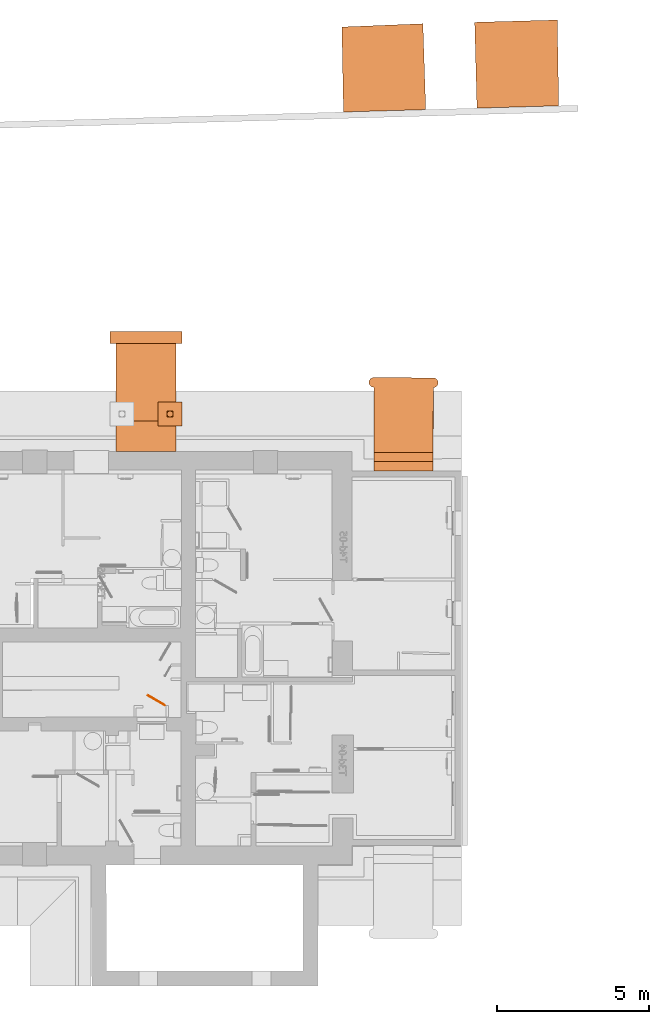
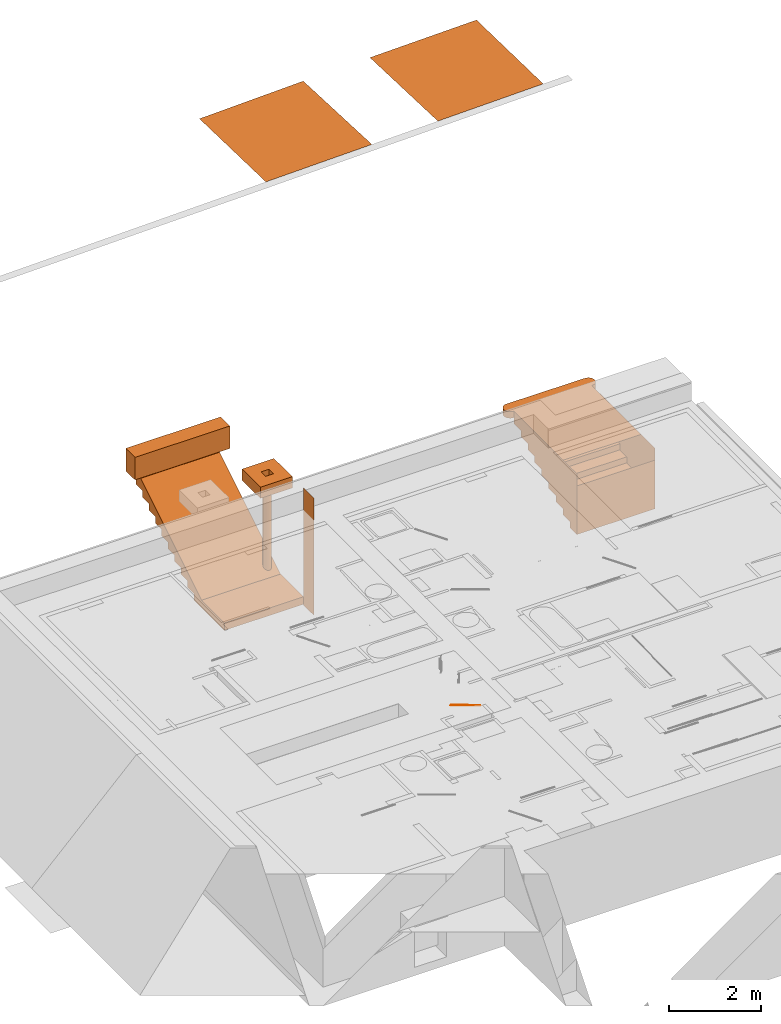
# Not in any storey, part 21 of 22: 6 proxies.
"""IFC4 model written with IfcOpenShell, lengths in metres."""

import ifcopenshell
import ifcopenshell.guid

model = None  # the IFC model being written
_history = None  # IfcOwnerHistory: only IFC2X3 demands one
_inside = {}  # id of a spatial element -> (the spatial element, [elements in it])
_under = {}  # id of a project, library or spatial element -> (it, [spatial elements below it])
_declared = {}  # id of a project -> (the project, [libraries it declares])
_typed = {}  # id of a type object -> (the type object, [elements of that type])
_made_of = {}  # id of a material, layer set ... -> (it, [elements and type objects made of it])


def new_model(schema):
    """Start an empty IFC model of exactly this schema.

    Asked for "IFC4X3", IfcOpenShell would pick the latest addendum, in which some entities
    have other attributes; the version numbers below select the first issue.
    IFC2X3 requires an IfcOwnerHistory on every rooted entity: one is made here for all.
    """
    global model, _history
    if schema == "IFC4X3":
        model = ifcopenshell.file(schema_version=(4, 3, 0, 0))
    else:
        model = ifcopenshell.file(schema=schema)
    _inside.clear()
    _under.clear()
    _declared.clear()
    _typed.clear()
    _made_of.clear()
    _history = None
    if model.schema == "IFC2X3":
        org = make("IfcOrganization", Name="unknown")
        user = make(
            "IfcPersonAndOrganization",
            ThePerson=make("IfcPerson", FamilyName="unknown"),
            TheOrganization=org,
        )
        app = make(
            "IfcApplication",
            ApplicationDeveloper=org,
            Version="unknown",
            ApplicationFullName="unknown",
            ApplicationIdentifier="unknown",
        )
        _history = make(
            "IfcOwnerHistory",
            OwningUser=user,
            OwningApplication=app,
            ChangeAction="ADDED",
            CreationDate=0,
        )
    return model


def make(cls, **values):
    """One entity of the class cls with the attributes given. An attribute that is None is left unset."""
    return model.create_entity(
        cls, **{name: value for name, value in values.items() if value is not None}
    )


def rooted(cls, **values):
    """An entity with a GlobalId (a new one), such as an element, a storey or a relation."""
    return make(cls, GlobalId=ifcopenshell.guid.new(), OwnerHistory=_history, **values)


def si_unit(unit_type, name, prefix=None):
    """IfcSIUnit, for example si_unit("LENGTHUNIT", "METRE", prefix="MILLI")."""
    return make("IfcSIUnit", UnitType=unit_type, Prefix=prefix, Name=name)


def assignment(units):
    """IfcUnitAssignment: the units of a project."""
    return None if units is None else make("IfcUnitAssignment", Units=units)


def point(xyz):
    """IfcCartesianPoint."""
    return None if xyz is None else make("IfcCartesianPoint", Coordinates=xyz)


def direction(xyz):
    """IfcDirection."""
    return None if xyz is None else make("IfcDirection", DirectionRatios=xyz)


def frame(location, z_axis=None, x_axis=None):
    """IfcAxis2Placement3D, a coordinate frame: its origin and axes. An axis left out is left unset."""
    return make(
        "IfcAxis2Placement3D",
        Location=point(location),
        Axis=direction(z_axis),
        RefDirection=direction(x_axis),
    )


def origin_with_axes():
    """The frame at (0, 0, 0) with the z axis (0, 0, 1) and the x axis (1, 0, 0) written out."""
    return frame((0.0, 0.0, 0.0), z_axis=(0.0, 0.0, 1.0), x_axis=(1.0, 0.0, 0.0))


def place(relative_to, where):
    """IfcLocalPlacement: puts the frame where relative to a parent placement (None: the world)."""
    return make(
        "IfcLocalPlacement", PlacementRelTo=relative_to, RelativePlacement=where
    )


def context(
    kind, dimensions, precision=None, world=None, true_north=None, identifier=None
):
    """IfcGeometricRepresentationContext, for example the 3D "Model" context."""
    return make(
        "IfcGeometricRepresentationContext",
        ContextIdentifier=identifier,
        ContextType=kind,
        CoordinateSpaceDimension=dimensions,
        Precision=precision,
        WorldCoordinateSystem=world,
        TrueNorth=true_north,
    )


def subcontext(parent, identifier, kind, view, scale=None):
    """IfcGeometricRepresentationSubContext, for example "Body" below "Model"."""
    return make(
        "IfcGeometricRepresentationSubContext",
        ContextIdentifier=identifier,
        ContextType=kind,
        ParentContext=parent,
        TargetScale=scale,
        TargetView=view,
    )


def project(units=None, contexts=None):
    """IfcProject with its units and contexts."""
    return rooted(
        "IfcProject",
        Name="project",
        RepresentationContexts=contexts,
        UnitsInContext=assignment(units),
    )


def faces_of(points, faces, orient=None, outer=None):
    """IfcFace entities. A face is a list of loops; a loop is a list of indices into points, from 0.

    orient and outer hold one flag for each loop. By default every Orientation is true, the
    first loop of a face is its IfcFaceOuterBound and the others are IfcFaceBound.
    """
    made = []
    for i, loops in enumerate(faces):
        bounds = []
        for j, loop in enumerate(loops):
            is_outer = j == 0 if outer is None else outer[i][j]
            bounds.append(
                make(
                    "IfcFaceOuterBound" if is_outer else "IfcFaceBound",
                    Bound=make("IfcPolyLoop", Polygon=[points[k] for k in loop]),
                    Orientation=True if orient is None else orient[i][j],
                )
            )
        made.append(make("IfcFace", Bounds=bounds))
    return made


def faceted_brep(points, faces, orient=None, outer=None, voids=None):
    """IfcFacetedBrep: a solid bounded by flat faces; with voids (closed shells), ...WithVoids."""
    shared = [point(p) for p in points]
    hull = make("IfcClosedShell", CfsFaces=faces_of(shared, faces, orient, outer))
    if voids is None:
        return make("IfcFacetedBrep", Outer=hull)
    return make(
        "IfcFacetedBrepWithVoids",
        Outer=hull,
        Voids=[
            make(cls, CfsFaces=faces_of(shared, fs, o, b)) for cls, fs, o, b in voids
        ],
    )


def shape(context_of_items, identifier, shape_type, items):
    """IfcShapeRepresentation: the items that make up one representation, for example the "Body"."""
    return make(
        "IfcShapeRepresentation",
        ContextOfItems=context_of_items,
        RepresentationIdentifier=identifier,
        RepresentationType=shape_type,
        Items=items,
    )


def made_of(thing, what):
    """Note that an element or type object is made of a material, layer set ...; save() writes the relation."""
    if what is not None:
        _made_of.setdefault(what.id(), (what, []))[1].append(thing)
    return thing


def element(
    cls,
    number,
    at=None,
    inside=None,
    cuts=None,
    type_object=None,
    material=None,
    context=None,
    identifier="Body",
    shape_type=None,
    held_by="IfcProductDefinitionShape",
    body=None,
    shapes=None,
    **own,
):
    """One element of the class cls, such as IfcWall. Its Tag is "e" and its number.

    at: its placement. inside: the storey or other place that contains it. cuts: it is an
    opening in that element (IfcRelVoidsElement). A single representation is given by context,
    identifier, shape_type and body (its items); several are given by shapes. held_by: the class
    of the entity that holds the representations. save() writes the other relations.
    """
    e = rooted(cls, Tag="e%d" % number, ObjectPlacement=at, **own)
    if body is not None:
        shapes = [shape(context, identifier, shape_type, body)]
    if shapes is not None:
        e.Representation = make(held_by, Representations=shapes)
    if inside is not None:
        _inside.setdefault(inside.id(), (inside, []))[1].append(e)
    if cuts is not None:
        rooted(
            "IfcRelVoidsElement", RelatingBuildingElement=cuts, RelatedOpeningElement=e
        )
    if type_object is not None:
        _typed.setdefault(type_object.id(), (type_object, []))[1].append(e)
    return made_of(e, material)


def aggregate(whole, parts):
    """IfcRelAggregates: a whole, such as a stair, and the parts it consists of."""
    return rooted("IfcRelAggregates", RelatingObject=whole, RelatedObjects=parts)


def save(model, path):
    """Write the relations noted so far, then the file.

    IfcRelAggregates (storeys below a building ...), IfcRelContainedInSpatialStructure (elements
    in a storey), IfcRelDefinesByType, IfcRelAssociatesMaterial and IfcRelDeclares: one each for
    every whole, place, type object, material and project.
    """
    for whole, parts in _under.values():
        aggregate(whole, parts)
    for where, things in _inside.values():
        rooted(
            "IfcRelContainedInSpatialStructure",
            RelatedElements=things,
            RelatingStructure=where,
        )
    for kind, things in _typed.values():
        rooted("IfcRelDefinesByType", RelatedObjects=things, RelatingType=kind)
    for what, things in _made_of.values():
        rooted("IfcRelAssociatesMaterial", RelatedObjects=things, RelatingMaterial=what)
    for by, libraries in _declared.values():
        rooted("IfcRelDeclares", RelatingContext=by, RelatedDefinitions=libraries)
    model.write(path)


model = new_model("IFC4")

# Units and contexts
model_context = context("Model", 3, precision=1e-05, world=origin_with_axes(), true_north=direction((1.0, 0.0)))
body_context = subcontext(model_context, "Body", "Model", "MODEL_VIEW")
ifc_project = project(units=[si_unit("LENGTHUNIT", "METRE"), si_unit("AREAUNIT", "SQUARE_METRE"), si_unit("VOLUMEUNIT", "CUBIC_METRE"), si_unit("MASSUNIT", "GRAM", prefix="KILO"), si_unit("TIMEUNIT", "SECOND"), si_unit("PLANEANGLEUNIT", "RADIAN"), si_unit("SOLIDANGLEUNIT", "STERADIAN")], contexts=[model_context])

# Proxies
placement = place(None, origin_with_axes())
element("IfcBuildingElementProxy", 1, at=placement, Name="Undefined", PredefinedType="NOTDEFINED", context=body_context, shape_type="AdvancedBrep", body=[
    faceted_brep([(147.734325, 31.474735, 2.31), (147.832097, 31.474736, 2.31), (147.832097, 31.474736, 2.61), (147.637379, 31.474736, 2.61), (147.637379, 31.474736, 2.31), (148.134738, 31.777377, 2.31), (147.334738, 31.777377, 2.31), (147.334738, 31.777377, 2.61), (148.134738, 31.777377, 2.61), (148.134738, 31.472619, 2.31), (148.134738, 31.472619, 2.61), (147.334738, 30.977377, 2.61), (147.637379, 30.977377, 2.61), (148.134738, 30.977377, 2.61), (147.832097, 31.280017, 2.61), (147.637379, 31.280017, 2.61), (147.832097, 31.473907, 2.61), (147.637379, 31.383232, 2.31), (147.637379, 31.280017, 2.31), (147.637379, 31.370696, 2.31), (147.832097, 31.473907, 2.31), (148.134738, 30.977377, 2.31), (147.728061, 31.280017, 2.31), (147.832097, 31.280017, 2.31), (147.74059, 31.280017, 2.31), (147.334738, 30.977377, 2.31), (147.637379, 30.977377, 2.31), (147.639886, 31.402269, 2.31), (147.649653, 31.42585, 2.31), (147.665191, 31.446099, 2.31), (147.68544, 31.461636, 2.31), (147.70902, 31.471404, 2.31), (147.731293, 31.474336, 2.31), (147.734325, 31.279193, 2.31), (147.636554, 31.376964, 2.31), (147.73756, 31.474309, 2.31), (147.831272, 31.473911, 2.31), (147.832097, 31.376964, 2.31), (147.828765, 31.351659, 2.31), (147.818998, 31.328078, 2.31), (147.80346, 31.307829, 2.31), (147.783211, 31.292291, 2.31), (147.759631, 31.282524, 2.31), (147.665191, 31.307829, 2.31), (147.649653, 31.328078, 2.31), (147.639886, 31.351659, 2.31), (147.70902, 31.282524, 2.31), (147.68544, 31.292291, 2.31), (147.80346, 31.446099, 2.31), (147.818998, 31.42585, 2.31), (147.828765, 31.402269, 2.31), (147.759631, 31.471404, 2.31), (147.783211, 31.461636, 2.31), (147.649653, 31.328078, -0.01), (147.665191, 31.307829, -0.01), (147.68544, 31.292291, -0.01), (147.70902, 31.282524, -0.01), (147.728061, 31.280017, -0.01), (147.74059, 31.280017, -0.01), (147.759631, 31.282524, -0.01), (147.783211, 31.292291, -0.01), (147.80346, 31.307829, -0.01), (147.818998, 31.328078, -0.01), (147.828765, 31.351659, -0.01), (147.832097, 31.376964, -0.01), (147.828765, 31.402269, -0.01), (147.818998, 31.42585, -0.01), (147.80346, 31.446099, -0.01), (147.783211, 31.461636, -0.01), (147.759631, 31.471404, -0.01), (147.73756, 31.474309, -0.01), (147.731293, 31.474336, -0.01), (147.70902, 31.471404, -0.01), (147.68544, 31.461636, -0.01), (147.665191, 31.446099, -0.01), (147.649653, 31.42585, -0.01), (147.639886, 31.402269, -0.01), (147.637379, 31.383232, -0.01), (147.637379, 31.370696, -0.01), (147.639886, 31.351659, -0.01)], [[[0, 1, 2, 3, 4]], [[5, 6, 7, 8]], [[9, 5, 8, 10]], [[11, 12, 13, 10, 8, 7], [14, 15, 3, 2, 16]], [[17, 4, 3, 15, 18, 19]], [[1, 20, 16, 2]], [[21, 9, 10, 13]], [[22, 18, 15, 14, 23, 24]], [[25, 26, 12, 11]], [[4, 17, 27, 28, 29, 30, 31, 32]], [[6, 25, 11, 7]], [[26, 21, 13, 12]], [[26, 21, 9, 5, 6, 25], [23, 24, 33, 22, 18, 19, 34, 17, 4, 32, 35, 36, 20, 37]], [[37, 23, 14, 16, 20]], [[23, 37, 38, 39, 40, 41, 42, 24]], [[19, 17, 34]], [[18, 43, 44, 45, 19]], [[18, 22, 46, 47, 43]], [[24, 22, 33]], [[36, 48, 49, 50, 37, 20]], [[36, 35, 51, 52, 48]], [[53, 54, 55, 56, 57, 58, 59, 60, 61, 62, 63, 64, 65, 66, 67, 68, 69, 70, 71, 72, 73, 74, 75, 76, 77, 78, 79]], [[44, 43, 54, 53]], [[43, 47, 55, 54]], [[47, 46, 56, 55]], [[46, 22, 57, 56]], [[22, 24, 58, 57]], [[24, 42, 59, 58]], [[42, 41, 60, 59]], [[41, 40, 61, 60]], [[40, 39, 62, 61]], [[39, 38, 63, 62]], [[38, 37, 64, 63]], [[37, 50, 65, 64]], [[50, 49, 66, 65]], [[49, 48, 67, 66]], [[48, 52, 68, 67]], [[52, 51, 69, 68]], [[51, 35, 70, 69]], [[35, 32, 71, 70]], [[32, 31, 72, 71]], [[31, 30, 73, 72]], [[30, 29, 74, 73]], [[29, 28, 75, 74]], [[28, 27, 76, 75]], [[27, 17, 77, 76]], [[17, 19, 78, 77]], [[19, 45, 79, 78]], [[45, 44, 53, 79]]]),
])
element("IfcBuildingElementProxy", 2, at=placement, Name="Undefined", PredefinedType="NOTDEFINED", context=body_context, shape_type="Brep", body=[
    faceted_brep([(146.99659, 22.112732, 2.31), (147.567531, 21.773757, 2.31), (147.557089, 21.754394, 2.31), (146.981401, 22.084567, 2.31)], [[[0, 1, 2, 3]]]),
])
element("IfcBuildingElementProxy", 3, at=placement, Name="Undefined", PredefinedType="NOTDEFINED", context=body_context, shape_type="Brep", body=[
    faceted_brep([(154.45241, 29.503964, -0.25), (154.452446, 29.817845, -0.25), (156.412186, 29.809963, -0.25), (156.411336, 29.503964, -0.25), (155.434579, 29.503964, -0.25), (155.434465, 29.503964, -0.25), (154.45241, 29.503964, 1.044), (154.452446, 29.817845, 1.044), (154.452446, 29.817845, -0.09), (156.412186, 29.809963, -0.09), (156.412186, 29.809963, 1.044), (156.411336, 29.503964, 1.044), (156.411319, 29.503964, 0.87), (155.434579, 29.503964, 1.044), (155.434465, 29.503964, 1.044), (154.452589, 29.503964, 1.044), (154.452482, 30.124097, -0.09), (156.413035, 30.116165, -0.09), (154.452482, 30.124097, 0.07), (156.413035, 30.116165, 0.07), (156.413035, 30.116165, 1.044), (154.452482, 30.124097, 1.044), (154.452517, 30.430298, 0.07), (156.413835, 30.422362, 0.07), (154.452517, 30.430298, 0.23), (156.413835, 30.422362, 0.23), (156.413835, 30.422362, 1.044), (154.452517, 30.430298, 1.044), (154.452553, 30.736503, 0.23), (156.414684, 30.728611, 0.23), (154.452553, 30.736503, 0.39), (156.414684, 30.728611, 0.39), (156.414684, 30.728611, 1.044), (154.452553, 30.736503, 1.044), (154.452589, 31.042751, 0.39), (156.415534, 31.034813, 0.39), (154.452589, 31.042751, 0.55), (156.415534, 31.034813, 0.55), (156.415534, 31.034813, 1.044), (154.452589, 31.042751, 1.044), (154.452624, 31.348955, 0.55), (156.416385, 31.341057, 0.55), (154.452624, 31.348955, 0.87), (154.452624, 31.348955, 0.71), (156.416385, 31.341057, 0.71), (156.416385, 31.341057, 0.87), (156.415119, 31.341062, 0.87), (156.416385, 31.341057, 1.044), (154.452624, 31.348955, 1.044), (154.452624, 31.647057, 0.71), (156.416385, 31.647057, 0.71), (154.452624, 31.647057, 0.87), (156.415752, 31.647057, 0.87), (156.416385, 31.647057, 0.87), (154.452624, 31.953057, 0.87), (156.416385, 31.953057, 0.87), (156.416385, 31.953057, 1.03), (154.452624, 31.953057, 1.03), (156.416385, 31.945159, 1.03), (154.452624, 31.647057, 1.03), (156.416385, 31.647057, 1.03), (156.417186, 32.25136, 1.03), (154.45266, 32.259309, 1.03), (154.297942, 32.456603, 1.19), (154.297942, 32.456603, 1.364), (154.303135, 32.473153, 1.364), (154.303135, 32.473153, 1.19), (154.398323, 32.568366, 1.19), (154.398323, 32.568366, 1.364), (154.414871, 32.573563, 1.364), (154.414871, 32.573563, 1.19), (156.467491, 32.562229, 1.19), (156.467491, 32.562229, 1.364), (156.494719, 32.550218, 1.364), (156.494719, 32.550218, 1.19), (154.452624, 31.953057, 1.044), (154.452624, 31.953057, 1.364), (154.45266, 32.259309, 1.364), (154.45266, 32.259309, 1.19), (156.568417, 32.461279, 1.19), (156.568417, 32.461279, 1.364), (156.575203, 32.431656, 1.364), (156.575203, 32.431656, 1.19), (156.571291, 32.370102, 1.19), (156.571291, 32.370102, 1.364), (156.560967, 32.342023, 1.364), (156.560967, 32.342023, 1.19), (154.452482, 30.728199, 1.364), (154.452463, 30.108066, 1.364), (154.452589, 31.042751, 1.364), (154.452589, 31.646852, 1.364), (154.452553, 31.340605, 1.364), (154.452517, 31.0344, 1.364), (156.44806, 32.25438, 1.19), (156.417186, 32.25136, 1.19), (154.421767, 32.262299, 1.19), (154.392885, 32.270891, 1.19), (154.366579, 32.284517, 1.19), (154.343416, 32.302611, 1.19), (154.323964, 32.324605, 1.19), (154.308789, 32.349933, 1.19), (154.298459, 32.378027, 1.19), (154.29354, 32.40832, 1.19), (154.294544, 32.439594, 1.19), (154.310065, 32.489054, 1.19), (154.318652, 32.504124, 1.19), (154.328799, 32.518192, 1.19), (154.340389, 32.531096, 1.19), (154.353291, 32.54269, 1.19), (154.367356, 32.55284, 1.19), (154.382424, 32.561432, 1.19), (154.43188, 32.576965, 1.19), (154.452711, 32.578309, 1.19), (155.434522, 32.574308, 1.19), (156.416934, 32.57036, 1.19), (156.437875, 32.569017, 1.19), (156.518993, 32.533551, 1.19), (156.539745, 32.512794, 1.19), (156.556409, 32.488514, 1.19), (156.576206, 32.400378, 1.19), (156.545803, 32.316707, 1.19), (156.526363, 32.294719, 1.19), (156.503215, 32.276625, 1.19), (156.476925, 32.26299, 1.19), (154.421767, 32.262299, 1.364), (154.294544, 32.439594, 1.364), (154.328799, 32.518192, 1.364), (154.340389, 32.531096, 1.364), (154.318652, 32.504124, 1.364), (154.382424, 32.561432, 1.364), (154.43188, 32.576965, 1.364), (154.452711, 32.578309, 1.364), (156.518993, 32.533551, 1.364), (156.539745, 32.512794, 1.364), (156.556409, 32.488514, 1.364), (156.576206, 32.400378, 1.364), (154.367356, 32.55284, 1.364), (156.526363, 32.294719, 1.364), (156.503215, 32.276625, 1.364), (156.476925, 32.26299, 1.364), (156.44806, 32.25438, 1.364), (155.434522, 32.574308, 1.364), (156.416934, 32.57036, 1.364), (154.310065, 32.489054, 1.364), (154.353291, 32.54269, 1.364), (156.437875, 32.569017, 1.364), (156.545803, 32.316707, 1.364), (154.392885, 32.270891, 1.364), (154.366579, 32.284517, 1.364), (154.343416, 32.302611, 1.364), (154.323964, 32.324605, 1.364), (156.417186, 32.25136, 1.364), (154.308789, 32.349933, 1.364), (154.298459, 32.378027, 1.364), (154.29354, 32.40832, 1.364), (154.452446, 30.421947, 1.364), (154.452624, 31.647057, 1.044), (156.416385, 31.945159, 1.044), (156.416385, 31.953057, 1.044), (156.416385, 31.945159, 1.364), (156.411336, 29.503964, 1.364), (154.452624, 31.348955, 1.364), (154.452624, 31.647057, 1.364), (154.45241, 29.503964, 1.364), (155.434465, 30.108066, 1.364), (155.434579, 30.108066, 1.364), (156.411336, 30.108066, 1.364), (156.412186, 30.414065, 1.364), (156.413035, 30.720266, 1.364), (156.413835, 31.026464, 1.364), (156.414684, 31.332713, 1.364), (156.415534, 31.638914, 1.364)], [[[0, 1, 2, 3, 4, 5]], [[0, 6, 7, 8, 1]], [[1, 8, 9, 2]], [[9, 10, 11, 12, 3, 2]], [[12, 11, 13, 4, 3]], [[4, 13, 14, 5]], [[5, 14, 15, 6, 0]], [[16, 17, 9, 8]], [[16, 18, 19, 17]], [[19, 20, 10, 9, 17]], [[8, 7, 21, 18, 16]], [[22, 23, 19, 18]], [[22, 24, 25, 23]], [[25, 26, 20, 19, 23]], [[18, 21, 27, 24, 22]], [[28, 29, 25, 24]], [[28, 30, 31, 29]], [[31, 32, 26, 25, 29]], [[24, 27, 33, 30, 28]], [[34, 35, 31, 30]], [[34, 36, 37, 35]], [[37, 38, 32, 31, 35]], [[30, 33, 39, 36, 34]], [[40, 41, 37, 36]], [[42, 43, 44, 45, 46]], [[45, 47, 38, 37, 41, 44]], [[36, 39, 48, 42, 43, 40]], [[49, 50, 44, 43]], [[50, 49, 51, 52, 53]], [[49, 43, 42, 51]], [[41, 44, 43, 40]], [[54, 55, 52, 51]], [[56, 57, 58]], [[54, 51, 59, 57]], [[52, 53, 60, 59, 51]], [[53, 55, 56, 58, 60]], [[55, 54, 57, 56]], [[61, 56, 57, 62]], [[63, 64, 65, 66]], [[67, 68, 69, 70]], [[71, 72, 73, 74]], [[75, 76, 77, 78, 62, 57]], [[79, 80, 81, 82]], [[83, 84, 85, 86]], [[87, 88, 89, 90, 91, 92]], [[93, 94, 78, 95, 96, 97, 98, 99, 100, 101, 102, 103, 63, 66, 104, 105, 106, 107, 108, 109, 110, 67, 70, 111, 112, 113, 114, 115, 71, 74, 116, 117, 118, 79, 82, 119, 83, 86, 120, 121, 122, 123]], [[78, 77, 124, 95]], [[103, 125, 64, 63]], [[106, 126, 127, 107]], [[62, 78, 94, 61]], [[105, 128, 126, 106]], [[110, 129, 68, 67]], [[111, 130, 131, 112]], [[116, 132, 133, 117]], [[118, 134, 80, 79]], [[82, 81, 135, 119]], [[109, 136, 129, 110]], [[121, 137, 138, 122]], [[123, 139, 140, 93]], [[112, 131, 141, 142, 114, 113]], [[117, 133, 134, 118]], [[66, 65, 143, 104]], [[107, 127, 144, 108]], [[70, 69, 130, 111]], [[114, 142, 145, 115]], [[74, 73, 132, 116]], [[120, 146, 137, 121]], [[96, 147, 148, 97]], [[122, 138, 139, 123]], [[98, 149, 150, 99]], [[93, 140, 151, 94]], [[100, 152, 153, 101]], [[104, 143, 128, 105]], [[108, 144, 136, 109]], [[101, 153, 154, 102]], [[97, 148, 149, 98]], [[119, 135, 84, 83]], [[115, 145, 72, 71]], [[86, 85, 146, 120]], [[102, 154, 125, 103]], [[95, 124, 147, 96]], [[99, 150, 152, 100]], [[60, 58, 57, 59]], [[88, 87, 155]], [[57, 59, 156, 75]], [[53, 52, 55]], [[42, 46, 52, 51]], [[46, 52, 55, 56, 58, 157, 11, 12]], [[58, 56, 158, 157]], [[159, 157, 158, 56, 61, 94, 151]], [[11, 157, 159, 160]], [[53, 52, 46, 45]], [[44, 50, 53, 45]], [[90, 89, 161, 162, 76]], [[89, 39, 33, 27, 21, 7, 6, 163, 88]], [[15, 39, 33, 27, 21, 7, 6]], [[39, 89, 161, 48]], [[48, 156, 59, 51, 42]], [[162, 76, 75, 156]], [[77, 76, 162, 161, 89, 88, 164, 165, 166, 167, 168, 169, 170, 171, 159, 151, 140, 139, 138, 137, 146, 85, 84, 135, 81, 80, 134, 133, 132, 73, 72, 145, 142, 141, 131, 130, 69, 68, 129, 136, 144, 127, 126, 128, 143, 65, 64, 125, 154, 153, 152, 150, 149, 148, 147, 124]], [[161, 162, 156, 48]]]),
])
element("IfcBuildingElementProxy", 4, at=placement, Name="Undefined", PredefinedType="NOTDEFINED", context=body_context, shape_type="Brep", body=[
    faceted_brep([(147.934738, 30.142377, -0.128714), (147.934738, 30.142377, -0.21), (147.934738, 30.142377, -0.23), (147.934738, 29.692377, -0.23), (147.934738, 29.692377, -0.21), (147.934738, 29.692377, 1.007263), (147.934738, 29.692377, 2.51), (147.934738, 29.692377, 2.579381), (147.934738, 29.692377, 2.64), (147.934738, 29.692377, 2.893058), (147.934738, 30.142377, 2.893058), (147.934738, 30.142377, -0.01), (147.934738, 30.142377, -0.078714), (147.934738, 29.992377, -0.078714), (147.934738, 29.992377, -0.103714), (147.934738, 29.992377, -0.128714), (147.934738, 30.142377, -0.103714), (145.944738, 30.142377, -0.21), (145.944738, 30.142377, -0.128714), (145.944738, 30.142377, -0.103714), (145.944738, 30.142377, -0.078714), (145.944738, 30.142377, -0.01), (145.944738, 31.140854, -0.01), (145.944738, 31.277377, 0.073864), (145.944738, 31.377376, 0.135292), (145.944738, 31.477377, 0.196721), (145.944738, 33.797377, 1.621864), (145.944738, 33.797377, 1.71), (145.944738, 33.997376, 1.71), (145.944738, 33.997376, 1.51), (145.944738, 33.997376, 1.338), (145.944738, 33.897376, 1.338), (145.944738, 33.894785, 1.338), (145.944738, 33.717377, 1.338), (145.944738, 33.717377, 1.166), (145.944738, 33.437376, 1.166), (145.944738, 33.437376, 0.994), (145.944738, 33.157377, 0.994), (145.944738, 33.157377, 0.822), (145.944738, 32.877376, 0.822), (145.944738, 32.877376, 0.65), (145.944738, 32.597377, 0.65), (145.944738, 32.597377, 0.478), (145.944738, 32.317377, 0.478), (145.944738, 32.317377, 0.306), (145.944738, 32.037377, 0.306), (145.944738, 32.037377, 0.134), (145.944738, 31.757377, 0.134), (145.944738, 31.757377, -0.038), (145.944738, 31.477377, -0.038), (145.944738, 31.477377, -0.21), (145.944738, 31.377376, -0.21), (147.934738, 31.140854, -0.01), (147.934738, 31.277377, 0.073864), (147.934738, 31.377376, 0.135292), (147.934738, 31.477377, 0.196721), (147.934738, 33.797377, 1.621864), (147.934738, 33.797377, 1.71), (147.934738, 33.997376, 1.71), (147.934738, 33.997376, 1.51), (147.934738, 33.997376, 1.338), (147.934738, 33.897376, 1.338), (147.934738, 33.894785, 1.338), (147.934738, 33.717377, 1.338), (147.934738, 33.717377, 1.166), (147.934738, 33.437376, 1.166), (147.934738, 33.437376, 0.994), (147.934738, 33.157377, 0.994), (147.934738, 33.157377, 0.822), (147.934738, 32.877376, 0.822), (147.934738, 32.877376, 0.65), (147.934738, 32.597377, 0.65), (147.934738, 32.597377, 0.478), (147.934738, 32.317377, 0.478), (147.934738, 32.317377, 0.306), (147.934738, 32.037377, 0.306), (147.934738, 32.037377, 0.134), (147.934738, 31.757377, 0.134), (147.934738, 31.757377, -0.038), (147.934738, 31.477377, -0.038), (147.934738, 31.477377, -0.21), (147.934738, 31.377376, -0.21), (147.734738, 31.377376, -0.21), (146.144738, 31.377376, -0.21), (148.134738, 33.797377, 1.71), (148.134738, 33.697377, 1.71), (145.744738, 33.697377, 1.71), (145.744738, 33.797377, 1.71), (148.134738, 33.697377, 2.01), (145.744738, 33.697377, 2.01), (148.134738, 34.097377, 2.01), (145.744738, 34.097377, 2.01), (148.134738, 34.097377, 1.71), (145.744738, 34.097377, 1.71), (148.134738, 33.997376, 1.71), (145.744738, 33.997376, 1.71), (148.134738, 33.697377, 2.31), (145.744738, 33.697377, 2.31), (148.134738, 34.097377, 2.31), (145.744738, 34.097377, 2.31)], [[[0, 1, 2, 3, 4, 5, 6, 7, 8, 9, 10, 11, 12, 13, 14, 15]], [[16, 0, 15, 14]], [[12, 16, 14, 13]], [[17, 18, 19, 20, 21, 22, 23, 24, 25, 26, 27, 28, 29, 30, 31, 32, 33, 34, 35, 36, 37, 38, 39, 40, 41, 42, 43, 44, 45, 46, 47, 48, 49, 50, 51]], [[1, 0, 18, 17]], [[0, 16, 19, 18]], [[16, 12, 20, 19]], [[12, 11, 21, 20]], [[11, 52, 22, 21]], [[52, 53, 23, 22]], [[53, 54, 24, 23]], [[54, 55, 25, 24]], [[55, 56, 26, 25]], [[56, 57, 27, 26]], [[57, 58, 28, 27]], [[58, 59, 29, 28]], [[59, 60, 30, 29]], [[60, 61, 31, 30]], [[61, 62, 32, 31]], [[62, 63, 33, 32]], [[63, 64, 34, 33]], [[64, 65, 35, 34]], [[65, 66, 36, 35]], [[66, 67, 37, 36]], [[67, 68, 38, 37]], [[68, 69, 39, 38]], [[69, 70, 40, 39]], [[70, 71, 41, 40]], [[71, 72, 42, 41]], [[72, 73, 43, 42]], [[73, 74, 44, 43]], [[74, 75, 45, 44]], [[75, 76, 46, 45]], [[76, 77, 47, 46]], [[77, 78, 48, 47]], [[78, 79, 49, 48]], [[79, 80, 50, 49]], [[80, 81, 82, 83, 51, 50]], [[53, 54, 81, 1, 0, 16, 12, 11, 52]], [[27, 57, 84, 85, 86, 87]], [[86, 85, 88, 89]], [[89, 88, 90, 91]], [[91, 90, 92, 93]], [[93, 92, 94, 58, 28, 95]], [[89, 88, 96, 97]], [[97, 96, 98, 99]], [[99, 98, 90, 91]], [[96, 98, 90, 88]], [[92, 94, 84, 85, 88, 90]], [[58, 57, 84, 94]], [[91, 89, 97, 99]], [[95, 87, 86, 89, 91, 93]], [[28, 27, 87, 95]], [[80, 81, 54, 55, 56, 57, 58, 59, 60, 61, 62, 63, 64, 65, 66, 67, 68, 69, 70, 71, 72, 73, 74, 75, 76, 77, 78, 79]], [[17, 51, 83, 82, 81, 1]]]),
])
element("IfcBuildingElementProxy", 5, at=placement, Name="Undefined", PredefinedType="NOTDEFINED", context=body_context, shape_type="Brep", body=[
    faceted_brep([(159.296885, 44.340756, 2.31), (158.992066, 44.33226, 2.31), (159.003292, 43.646441, 2.31), (159.01129, 43.157828, 2.31), (159.015168, 42.92096, 2.31), (159.317836, 42.932895, 2.31), (159.314364, 43.166202, 2.31), (159.308056, 43.590119, 2.31), (159.622602, 42.944912, 2.31), (159.92522, 42.956845, 2.31), (159.921723, 43.170466, 2.31), (159.917008, 43.458508, 2.31), (159.902289, 44.35769, 2.31), (160.530633, 42.973303, 2.31), (160.342583, 42.973303, 2.31), (160.227902, 42.96878, 2.31), (160.232012, 42.692597, 2.31), (160.249239, 41.534961, 2.31), (160.554033, 41.543722, 2.31), (158.712533, 42.909026, 2.31), (158.409877, 42.897092, 2.31), (158.433029, 41.482752, 2.31), (158.733629, 41.491393, 2.31), (159.643841, 41.517558, 2.31), (159.911936, 41.525265, 2.31), (159.948637, 41.52632, 2.31), (159.946585, 41.651631, 2.31), (160.181708, 41.53302, 2.31), (159.339027, 41.508796, 2.31), (159.038425, 41.500155, 2.31), (160.520554, 43.579428, 2.31), (160.507695, 44.374623, 2.31), (160.527781, 43.14753, 2.31), (160.525214, 43.304378, 2.31), (158.107232, 42.885158, 2.31), (158.128233, 41.473991, 2.31), (157.819415, 42.873808, 2.31), (157.85712, 41.466197, 2.31), (158.405883, 43.141101, 2.31), (158.395773, 43.758713, 2.31), (158.386662, 44.315351, 2.31), (157.781256, 44.298417, 2.31), (157.792884, 43.86429, 2.31), (157.812695, 43.124711, 2.31)], [[[0, 1, 2, 3, 4, 5, 6, 7]], [[8, 9, 10, 11, 12, 0, 7, 6, 5]], [[13, 14, 15, 16, 17, 18]], [[19, 20, 21, 22]], [[9, 8, 23, 24, 25, 26]], [[15, 9, 26, 25, 27, 17, 16]], [[8, 5, 28, 23]], [[5, 4, 29, 28]], [[30, 31, 12, 11, 10, 9, 15, 14, 13, 32, 33]], [[20, 34, 35, 21]], [[36, 37, 35, 34]], [[4, 19, 22, 29]], [[34, 20, 38, 39, 40, 41, 42, 43, 36]], [[19, 4, 3, 2, 1, 40, 39, 38, 20]]]),
])
element("IfcBuildingElementProxy", 6, at=placement, Name="Undefined", PredefinedType="NOTDEFINED", context=body_context, shape_type="Brep", body=[
    faceted_brep([(155.182177, 44.215697, 2.31), (154.88594, 44.203703, 2.31), (154.888471, 44.126393, 2.31), (154.931023, 42.826608, 2.31), (154.931542, 42.810762, 2.31), (155.22788, 42.819699, 2.31), (155.226109, 42.873781, 2.31), (155.185605, 44.110975, 2.31), (155.478425, 44.227691, 2.31), (155.526308, 42.828699, 2.31), (155.52314, 42.921265, 2.31), (155.482948, 44.095546, 2.31), (155.778878, 44.239856, 2.31), (155.824782, 42.8377, 2.31), (155.821087, 42.950561, 2.31), (155.784114, 44.079918, 2.31), (154.290089, 44.179579, 2.31), (154.290089, 44.155657, 2.31), (154.336733, 42.792824, 2.31), (154.635207, 42.801825, 2.31), (154.591338, 44.141811, 2.31), (154.591338, 44.191776, 2.31), (153.454342, 41.339636, 2.31), (153.788641, 41.349246, 2.31), (153.746473, 42.637241, 2.31), (153.741967, 42.774888, 2.31), (153.42676, 42.765382, 2.31), (153.430275, 42.583703, 2.31), (155.969275, 42.842058, 2.31), (156.121269, 42.842058, 2.31), (156.116813, 42.978165, 2.31), (156.081249, 44.0645, 2.31), (156.075115, 44.25185, 2.31), (154.084989, 41.357764, 2.31), (154.041558, 42.684414, 2.31), (154.038304, 42.783824, 2.31), (155.871551, 41.409121, 2.31), (156.167902, 41.417639, 2.31), (155.575186, 41.400601, 2.31), (153.697027, 44.155568, 2.31), (153.697027, 44.147587, 2.31), (153.993525, 44.151621, 2.31), (153.993525, 44.167572, 2.31), (153.4001, 44.143546, 2.31), (154.681921, 41.374924, 2.31), (154.978269, 41.383443, 2.31), (154.808739, 42.807059, 2.31), (154.63594, 42.779434, 2.31), (155.274622, 41.391961, 2.31), (154.385555, 41.366404, 2.31), (154.338817, 42.731935, 2.31)], [[[0, 1, 2, 3, 4, 5, 6, 7]], [[8, 0, 7, 6, 5, 9, 10, 11]], [[12, 8, 11, 10, 9, 13, 14, 15]], [[16, 17, 18, 19, 20, 21]], [[22, 23, 24, 25, 26, 27]], [[28, 29, 30, 31, 32, 12, 15, 14, 13]], [[23, 33, 34, 35, 25, 24]], [[29, 28, 13, 36, 37]], [[38, 36, 13, 9]], [[39, 40, 25, 35, 41, 42]], [[40, 39, 43, 26, 25]], [[44, 45, 4, 46, 19, 47]], [[48, 38, 9, 5]], [[45, 48, 5, 4]], [[33, 49, 50, 18, 35, 34]], [[49, 44, 47, 19, 18, 50]], [[42, 41, 35, 18, 17, 16]], [[21, 20, 19, 46, 4, 3, 2, 1]]]),
])

save(model, "model.ifc")
